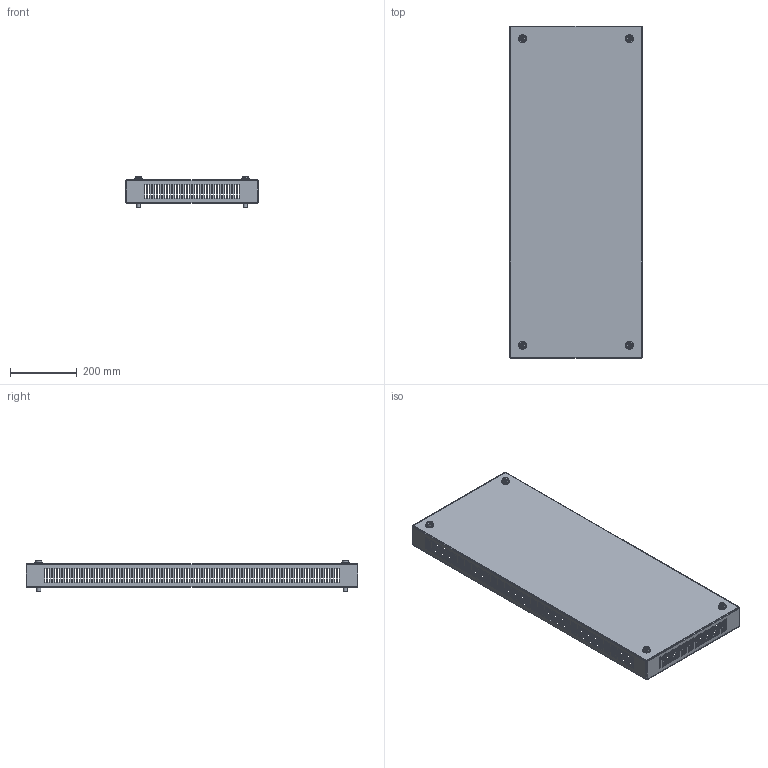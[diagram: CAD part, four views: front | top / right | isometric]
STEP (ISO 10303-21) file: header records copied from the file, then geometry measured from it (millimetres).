
FILE_DESCRIPTION(('STEP AP203'), '1');
FILE_NAME('3320 ÑÁ Ïîòîëî÷íàÿ ïàíåëü', '', ('UNSPECIFIED'), ('UNSPECIFIED'), 'C3D Converter', 'C3D Toolkit', '');
FILE_SCHEMA(('CONFIG_CONTROL_DESIGN'));
Length unit declared in the file: millimetre
Products named in the file (5): 3320.100.40 СБ; 3321; 2329
Assembly tree (13 placements, depth 2):
  3320.100.40 СБ
    3321
    2329  x4
    (unnamed)  x4
    (unnamed)  x4
Bounding box: 397 x 997 x 93.5 mm (x, y, z)
Volume: 932552 mm3; surface area: 1180684.3 mm2
Topology: 13 solids, 13 shells, 1140 faces, 3308 edges, 2200 vertices
Faces by surface type: plane 1040, cylinder 56, cone 20, sphere 16, torus 8
Full cylindrical faces by diameter (mm): 6 x4, 10.106 x4, 12 x8, 13.5 x4, 16 x4, 18 x4, 24 x4
Entity records: 36601 total; most frequent: CARTESIAN_POINT 7612, ORIENTED_EDGE 6004, DIRECTION 5198, EDGE_CURVE 3002, LINE 2922, VECTOR 2922, VERTEX_POINT 1994, EDGE_LOOP 1542
